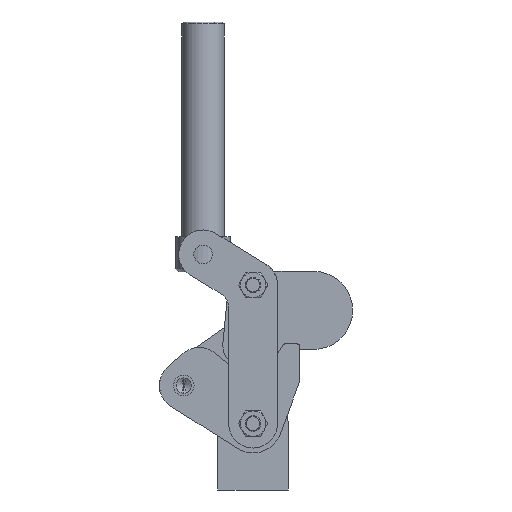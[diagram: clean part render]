
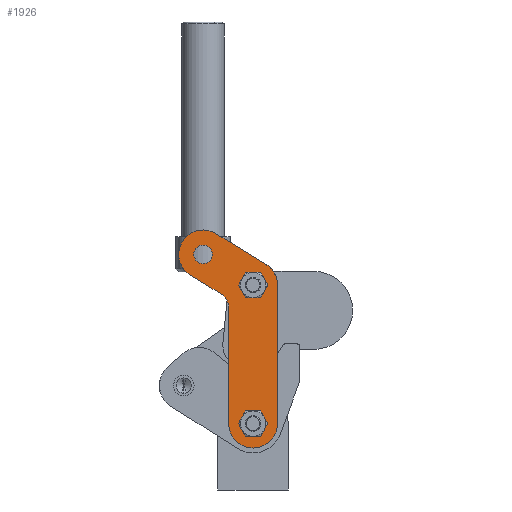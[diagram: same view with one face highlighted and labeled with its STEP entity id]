
A CAD part, front view. The second image highlights one B-rep face of the part: STEP entity #1926.
In plain terms, the highlighted planar face has unit normal (0, -1, 0).
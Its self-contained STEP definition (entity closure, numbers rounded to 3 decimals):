
#1801=CARTESIAN_POINT('Axis2P3D Location',(0.,-20.,0.)) ;
#1806=CARTESIAN_POINT('Line Origine',(-12.5,-20.,63.762)) ;
#1810=CARTESIAN_POINT('Cartesian Point',(-12.5,-20.,93.524)) ;
#1812=CARTESIAN_POINT('Cartesian Point',(-12.5,-20.,34.)) ;
#1815=CARTESIAN_POINT('Axis2P3D Location',(0.,-20.,34.)) ;
#1819=CARTESIAN_POINT('Cartesian Point',(12.5,-20.,34.)) ;
#1822=CARTESIAN_POINT('Line Origine',(12.5,-20.,69.5)) ;
#1826=CARTESIAN_POINT('Cartesian Point',(12.5,-20.,105.)) ;
#1829=CARTESIAN_POINT('Axis2P3D Location',(0.,-20.,105.)) ;
#1833=CARTESIAN_POINT('Cartesian Point',(6.535,-20.,115.656)) ;
#1836=CARTESIAN_POINT('Line Origine',(-6.265,-20.,123.506)) ;
#1840=CARTESIAN_POINT('Cartesian Point',(-19.065,-20.,131.356)) ;
#1843=CARTESIAN_POINT('Axis2P3D Location',(-25.6,-20.,120.7)) ;
#1847=CARTESIAN_POINT('Cartesian Point',(-32.135,-20.,110.044)) ;
#1850=CARTESIAN_POINT('Line Origine',(-24.226,-20.,105.194)) ;
#1854=CARTESIAN_POINT('Cartesian Point',(-16.318,-20.,100.344)) ;
#1857=CARTESIAN_POINT('Axis2P3D Location',(-20.5,-20.,93.524)) ;
#1872=CARTESIAN_POINT('Axis2P3D Location',(0.,-20.,105.)) ;
#1876=CARTESIAN_POINT('Cartesian Point',(4.75,-20.,105.)) ;
#1878=CARTESIAN_POINT('Cartesian Point',(-4.75,-20.,105.)) ;
#1881=CARTESIAN_POINT('Axis2P3D Location',(0.,-20.,105.)) ;
#1890=CARTESIAN_POINT('Axis2P3D Location',(0.,-20.,34.)) ;
#1894=CARTESIAN_POINT('Cartesian Point',(4.75,-20.,34.)) ;
#1896=CARTESIAN_POINT('Cartesian Point',(-4.75,-20.,34.)) ;
#1899=CARTESIAN_POINT('Axis2P3D Location',(0.,-20.,34.)) ;
#1908=CARTESIAN_POINT('Axis2P3D Location',(-25.6,-20.,120.7)) ;
#1912=CARTESIAN_POINT('Cartesian Point',(-20.85,-20.,120.7)) ;
#1914=CARTESIAN_POINT('Cartesian Point',(-30.35,-20.,120.7)) ;
#1917=CARTESIAN_POINT('Axis2P3D Location',(-25.6,-20.,120.7)) ;
#1802=DIRECTION('Axis2P3D Direction',(0.,1.,0.)) ;
#1803=DIRECTION('Axis2P3D XDirection',(0.,0.,-1.)) ;
#1807=DIRECTION('Vector Direction',(0.,0.,-1.)) ;
#1816=DIRECTION('Axis2P3D Direction',(0.,1.,0.)) ;
#1823=DIRECTION('Vector Direction',(0.,0.,-1.)) ;
#1830=DIRECTION('Axis2P3D Direction',(0.,1.,0.)) ;
#1837=DIRECTION('Vector Direction',(0.852,0.,-0.523)) ;
#1844=DIRECTION('Axis2P3D Direction',(0.,1.,0.)) ;
#1851=DIRECTION('Vector Direction',(0.852,0.,-0.523)) ;
#1858=DIRECTION('Axis2P3D Direction',(0.,1.,0.)) ;
#1873=DIRECTION('Axis2P3D Direction',(0.,1.,0.)) ;
#1882=DIRECTION('Axis2P3D Direction',(0.,1.,0.)) ;
#1891=DIRECTION('Axis2P3D Direction',(0.,1.,0.)) ;
#1900=DIRECTION('Axis2P3D Direction',(0.,1.,0.)) ;
#1909=DIRECTION('Axis2P3D Direction',(0.,1.,0.)) ;
#1918=DIRECTION('Axis2P3D Direction',(0.,1.,0.)) ;
#1804=AXIS2_PLACEMENT_3D('Plane Axis2P3D',#1801,#1802,#1803) ;
#1817=AXIS2_PLACEMENT_3D('Circle Axis2P3D',#1815,#1816,$) ;
#1831=AXIS2_PLACEMENT_3D('Circle Axis2P3D',#1829,#1830,$) ;
#1845=AXIS2_PLACEMENT_3D('Circle Axis2P3D',#1843,#1844,$) ;
#1859=AXIS2_PLACEMENT_3D('Circle Axis2P3D',#1857,#1858,$) ;
#1874=AXIS2_PLACEMENT_3D('Circle Axis2P3D',#1872,#1873,$) ;
#1883=AXIS2_PLACEMENT_3D('Circle Axis2P3D',#1881,#1882,$) ;
#1892=AXIS2_PLACEMENT_3D('Circle Axis2P3D',#1890,#1891,$) ;
#1901=AXIS2_PLACEMENT_3D('Circle Axis2P3D',#1899,#1900,$) ;
#1910=AXIS2_PLACEMENT_3D('Circle Axis2P3D',#1908,#1909,$) ;
#1919=AXIS2_PLACEMENT_3D('Circle Axis2P3D',#1917,#1918,$) ;
#1863=ORIENTED_EDGE('Oriented Edge',*,*,#1814,.T.) ;
#1864=ORIENTED_EDGE('Oriented Edge',*,*,#1821,.F.) ;
#1865=ORIENTED_EDGE('Oriented Edge',*,*,#1828,.F.) ;
#1866=ORIENTED_EDGE('Oriented Edge',*,*,#1835,.F.) ;
#1867=ORIENTED_EDGE('Oriented Edge',*,*,#1842,.F.) ;
#1868=ORIENTED_EDGE('Oriented Edge',*,*,#1849,.F.) ;
#1869=ORIENTED_EDGE('Oriented Edge',*,*,#1856,.T.) ;
#1870=ORIENTED_EDGE('Oriented Edge',*,*,#1861,.T.) ;
#1887=ORIENTED_EDGE('Oriented Edge',*,*,#1880,.T.) ;
#1888=ORIENTED_EDGE('Oriented Edge',*,*,#1885,.T.) ;
#1905=ORIENTED_EDGE('Oriented Edge',*,*,#1898,.T.) ;
#1906=ORIENTED_EDGE('Oriented Edge',*,*,#1903,.T.) ;
#1923=ORIENTED_EDGE('Oriented Edge',*,*,#1916,.T.) ;
#1924=ORIENTED_EDGE('Oriented Edge',*,*,#1921,.T.) ;
#1889=FACE_BOUND('Face Bound',#1886,.T.) ;
#1907=FACE_BOUND('Face Bound',#1904,.T.) ;
#1925=FACE_BOUND('Face Bound',#1922,.T.) ;
#1808=VECTOR('Line Direction',#1807,1.) ;
#1824=VECTOR('Line Direction',#1823,1.) ;
#1838=VECTOR('Line Direction',#1837,1.) ;
#1852=VECTOR('Line Direction',#1851,1.) ;
#1926=ADVANCED_FACE('',(#1871,#1889,#1907,#1925),#1805,.F.) ;
#1818=CIRCLE('generated circle',#1817,12.5) ;
#1832=CIRCLE('generated circle',#1831,12.5) ;
#1846=CIRCLE('generated circle',#1845,12.5) ;
#1860=CIRCLE('generated circle',#1859,8.) ;
#1875=CIRCLE('generated circle',#1874,4.75) ;
#1884=CIRCLE('generated circle',#1883,4.75) ;
#1893=CIRCLE('generated circle',#1892,4.75) ;
#1902=CIRCLE('generated circle',#1901,4.75) ;
#1911=CIRCLE('generated circle',#1910,4.75) ;
#1920=CIRCLE('generated circle',#1919,4.75) ;
#1814=EDGE_CURVE('',#1811,#1813,#1809,.T.) ;
#1821=EDGE_CURVE('',#1820,#1813,#1818,.T.) ;
#1828=EDGE_CURVE('',#1827,#1820,#1825,.T.) ;
#1835=EDGE_CURVE('',#1834,#1827,#1832,.T.) ;
#1842=EDGE_CURVE('',#1841,#1834,#1839,.T.) ;
#1849=EDGE_CURVE('',#1848,#1841,#1846,.T.) ;
#1856=EDGE_CURVE('',#1848,#1855,#1853,.T.) ;
#1861=EDGE_CURVE('',#1855,#1811,#1860,.T.) ;
#1880=EDGE_CURVE('',#1877,#1879,#1875,.T.) ;
#1885=EDGE_CURVE('',#1879,#1877,#1884,.T.) ;
#1898=EDGE_CURVE('',#1895,#1897,#1893,.T.) ;
#1903=EDGE_CURVE('',#1897,#1895,#1902,.T.) ;
#1916=EDGE_CURVE('',#1913,#1915,#1911,.T.) ;
#1921=EDGE_CURVE('',#1915,#1913,#1920,.T.) ;
#1862=EDGE_LOOP('Oriented Loop',(#1863,#1864,#1865,#1866,#1867,#1868,#1869,#1870)) ;
#1886=EDGE_LOOP('Oriented Loop',(#1887,#1888)) ;
#1904=EDGE_LOOP('Oriented Loop',(#1905,#1906)) ;
#1922=EDGE_LOOP('Oriented Loop',(#1923,#1924)) ;
#1871=FACE_OUTER_BOUND('Face Bound',#1862,.T.) ;
#1809=LINE('Line',#1806,#1808) ;
#1825=LINE('Line',#1822,#1824) ;
#1839=LINE('Line',#1836,#1838) ;
#1853=LINE('Line',#1850,#1852) ;
#1805=PLANE('Plane',#1804) ;
#1811=VERTEX_POINT('Vertex Point',#1810) ;
#1813=VERTEX_POINT('Vertex Point',#1812) ;
#1820=VERTEX_POINT('Vertex Point',#1819) ;
#1827=VERTEX_POINT('Vertex Point',#1826) ;
#1834=VERTEX_POINT('Vertex Point',#1833) ;
#1841=VERTEX_POINT('Vertex Point',#1840) ;
#1848=VERTEX_POINT('Vertex Point',#1847) ;
#1855=VERTEX_POINT('Vertex Point',#1854) ;
#1877=VERTEX_POINT('Vertex Point',#1876) ;
#1879=VERTEX_POINT('Vertex Point',#1878) ;
#1895=VERTEX_POINT('Vertex Point',#1894) ;
#1897=VERTEX_POINT('Vertex Point',#1896) ;
#1913=VERTEX_POINT('Vertex Point',#1912) ;
#1915=VERTEX_POINT('Vertex Point',#1914) ;
